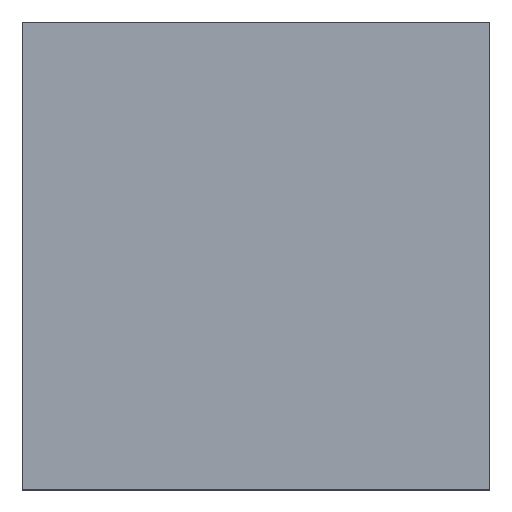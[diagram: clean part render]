
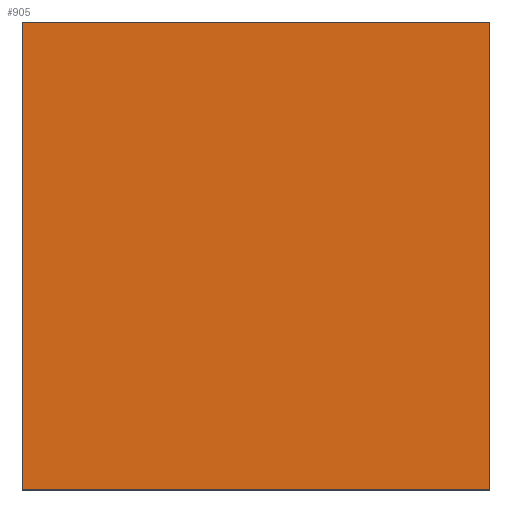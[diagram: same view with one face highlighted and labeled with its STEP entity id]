
A CAD part, top view. The second image highlights one B-rep face of the part: STEP entity #905.
In plain terms, the highlighted planar face has unit normal (0, 0, 1).
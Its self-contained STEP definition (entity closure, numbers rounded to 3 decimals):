
#31 = DIRECTION ( 'NONE',  ( 0., 0., -1. ) ) ;
#55 = ORIENTED_EDGE ( 'NONE', *, *, #807, .T. ) ;
#94 = DIRECTION ( 'NONE',  ( 0., -1., 0. ) ) ;
#106 = CARTESIAN_POINT ( 'NONE',  ( 38., 0., 10. ) ) ;
#126 = VECTOR ( 'NONE', #228, 1000. ) ;
#143 = VECTOR ( 'NONE', #616, 1000. ) ;
#146 = ORIENTED_EDGE ( 'NONE', *, *, #722, .T. ) ;
#169 = ORIENTED_EDGE ( 'NONE', *, *, #650, .T. ) ;
#199 = DIRECTION ( 'NONE',  ( -1., 0., 0. ) ) ;
#228 = DIRECTION ( 'NONE',  ( 1., 0., 0. ) ) ;
#247 = CARTESIAN_POINT ( 'NONE',  ( 38., 0., 10. ) ) ;
#253 = PLANE ( 'NONE',  #798 ) ;
#267 = VERTEX_POINT ( 'NONE', #580 ) ;
#273 = EDGE_CURVE ( 'NONE', #509, #473, #744, .T. ) ;
#332 = LINE ( 'NONE', #106, #143 ) ;
#381 = VECTOR ( 'NONE', #199, 1000. ) ;
#394 = CARTESIAN_POINT ( 'NONE',  ( 0., 0., 10. ) ) ;
#425 = VECTOR ( 'NONE', #94, 1000. ) ;
#431 = CARTESIAN_POINT ( 'NONE',  ( 0., 0., 10. ) ) ;
#435 = LINE ( 'NONE', #431, #126 ) ;
#453 = CARTESIAN_POINT ( 'NONE',  ( 0., 0., 10. ) ) ;
#459 = CARTESIAN_POINT ( 'NONE',  ( 0., 38., 10. ) ) ;
#473 = VERTEX_POINT ( 'NONE', #394 ) ;
#509 = VERTEX_POINT ( 'NONE', #459 ) ;
#518 = ORIENTED_EDGE ( 'NONE', *, *, #273, .T. ) ;
#531 = DIRECTION ( 'NONE',  ( -1., 0., 0. ) ) ;
#556 = LINE ( 'NONE', #926, #381 ) ;
#580 = CARTESIAN_POINT ( 'NONE',  ( 38., 38., 10. ) ) ;
#616 = DIRECTION ( 'NONE',  ( 0., 1., 0. ) ) ;
#650 = EDGE_CURVE ( 'NONE', #267, #509, #556, .T. ) ;
#676 = CARTESIAN_POINT ( 'NONE',  ( 0., 0., 10. ) ) ;
#722 = EDGE_CURVE ( 'NONE', #473, #900, #435, .T. ) ;
#744 = LINE ( 'NONE', #453, #425 ) ;
#766 = FACE_OUTER_BOUND ( 'NONE', #800, .T. ) ;
#798 = AXIS2_PLACEMENT_3D ( 'NONE', #676, #31, #531 ) ;
#800 = EDGE_LOOP ( 'NONE', ( #518, #146, #55, #169 ) ) ;
#807 = EDGE_CURVE ( 'NONE', #900, #267, #332, .T. ) ;
#900 = VERTEX_POINT ( 'NONE', #247 ) ;
#905 = ADVANCED_FACE ( 'NONE', ( #766 ), #253, .F. ) ;
#926 = CARTESIAN_POINT ( 'NONE',  ( 0., 38., 10. ) ) ;
